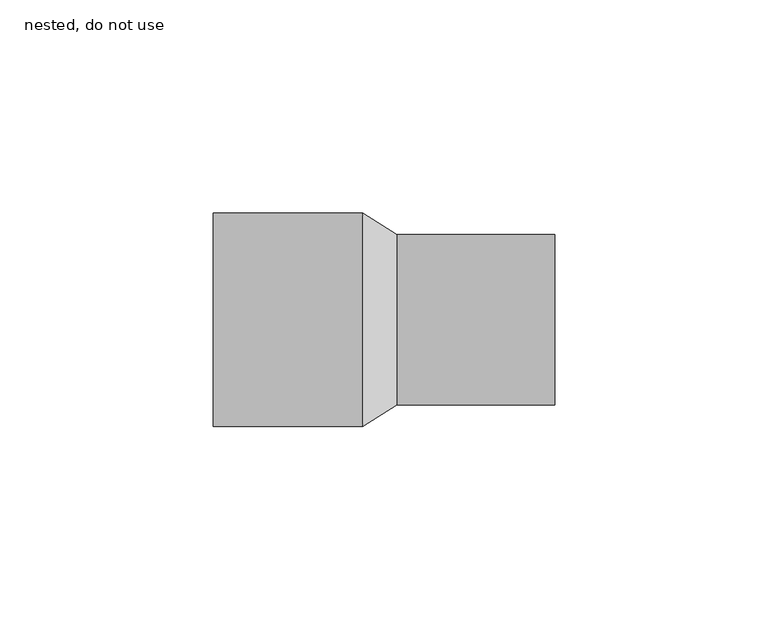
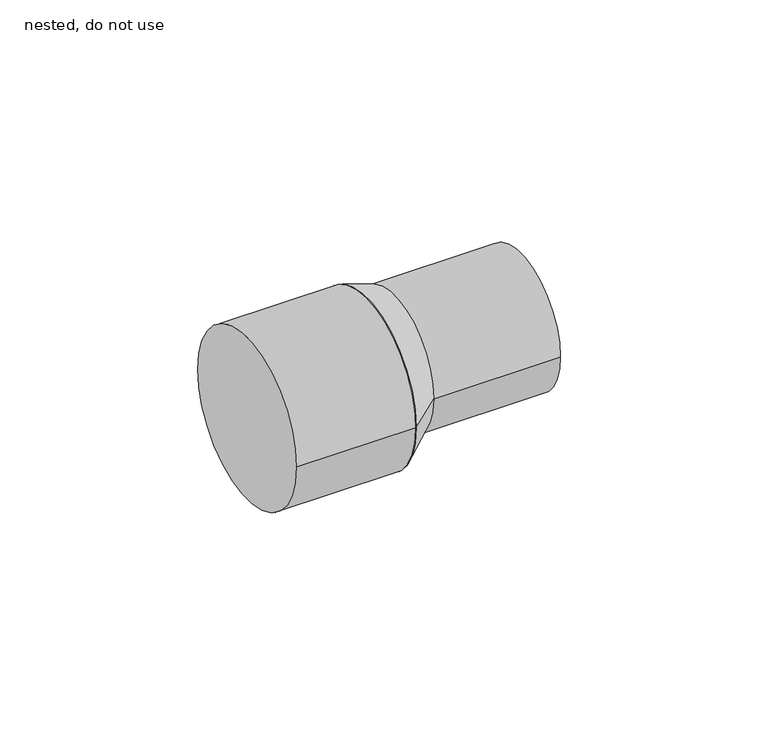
"""IFC4 building model written with IfcOpenShell, lengths in millimetres: pipe fitting geometry, ZZZ_do no use_PIF_HDPE reducer -SH_Akatherm : nested, do not use."""

from ifc_helpers import new_model, si_unit, point, frame, frame_2d, origin, origin_2d, place, context, project, spatial, circle_curve, trimmed, segment, composite_curve, outline, extrude, source, transform, mapped, element, save
from ifc_brep_helpers import plane_surface, spline_surface, advanced_brep


def nested_do_not_use_8d55d71e(model_context):
    return source(origin(), model_context, "Body", "SolidModel", [
        advanced_brep(
        [(3.0, -20.0, 3.0), (3.0, 20.0, 3.0), (-5.0, -25.0, 0.0), (-5.0, 25.0, 0.0)],
        [
            (0, 1, circle_curve(frame((3.0, 0.0, 3.0), z_axis=(1.0, 0.0, 0.0), x_axis=(0.0, 1.0, 0.0)), 20.0)),
            (1, 0, circle_curve(frame((3.0, 0.0, 3.0), z_axis=(1.0, 0.0, 0.0), x_axis=(0.0, 1.0, 0.0)), 20.0)),
            (2, 3, circle_curve(frame((-5.0, 0.0, 0.0), z_axis=(-1.0, 0.0, 0.0), x_axis=(0.0, 1.0, 0.0)), 25.0)),
            (3, 2, circle_curve(frame((-5.0, 0.0, 0.0), z_axis=(-1.0, 0.0, 0.0), x_axis=(0.0, 1.0, 0.0)), 25.0)),
            (3, 1),
            (0, 2),
        ],
        [
            plane_surface(frame((3.0, 0.0, 3.0), z_axis=(1.0, 0.0, 0.0), x_axis=(0.0, 0.0, -1.0))),
            plane_surface(frame((-5.0, 0.0, 0.0), z_axis=(-1.0, 0.0, 0.0), x_axis=(0.0, 0.0, -1.0))),
            spline_surface(2, 1, [[(-5.0, -25.0, 0.0), (3.0, -20.0, 3.0)], [(-5.0, -25.0, -25.0), (3.0, -20.0, -17.0)], [(-5.0, 0.0, -25.0), (3.0, 0.0, -17.0)], [(-5.0, 25.0, -25.0), (3.0, 20.0, -17.0)], [(-5.0, 25.0, 0.0), (3.0, 20.0, 3.0)]], [3, 2, 3], [2, 2], [0.0, 1.0, 2.0], [0.0, 1.0], weights=[[1.0, 1.0], [0.7071067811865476, 0.7071067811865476], [1.0, 1.0], [0.7071067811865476, 0.7071067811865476], [1.0, 1.0]]),
            spline_surface(2, 1, [[(-5.0, 25.0, 0.0), (3.0, 20.0, 3.0)], [(-5.0, 25.0, 25.0), (3.0, 20.0, 23.0)], [(-5.0, 0.0, 25.0), (3.0, 0.0, 23.0)], [(-5.0, -25.0, 25.0), (3.0, -20.0, 23.0)], [(-5.0, -25.0, 0.0), (3.0, -20.0, 3.0)]], [3, 2, 3], [2, 2], [0.0, 1.0, 2.0], [0.0, 1.0], weights=[[1.0, 1.0], [0.7071067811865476, 0.7071067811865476], [1.0, 1.0], [0.7071067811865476, 0.7071067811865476], [1.0, 1.0]]),
        ],
        [
            (0, [[1, 2]]),
            (1, [[3, 4]]),
            (2, [[-4, 5, -1, 6]]),
            (3, [[-3, -6, -2, -5]]),
        ],
    ),
        extrude(outline(composite_curve([segment(trimmed(circle_curve(frame_2d((0.0, 3.0)), 20.0), [point((-20.0, 3.0))], [point((20.0, 3.0))], False, "CARTESIAN"), True, "CONTINUOUS"), segment(trimmed(circle_curve(frame_2d((0.0, 3.0)), 20.0), [point((20.0, 3.0))], [point((-20.0, 3.0))], False, "CARTESIAN"), True, "CONTINUOUS")], self_intersect=False)), frame((3.0, 0.0, 0.0), z_axis=(1.0, 0.0, 0.0), x_axis=(0.0, 1.0, 0.0)), (0.0, 0.0, 1.0), 37.0),
        extrude(outline(composite_curve([segment(trimmed(circle_curve(origin_2d(), 25.0), [point((-25.0, 0.0))], [point((25.0, 0.0))], False, "CARTESIAN"), True, "CONTINUOUS"), segment(trimmed(circle_curve(origin_2d(), 25.0), [point((25.0, 0.0))], [point((-25.0, 0.0))], False, "CARTESIAN"), True, "CONTINUOUS")], self_intersect=False)), frame((-40.0, 0.0, 0.0), z_axis=(1.0, 0.0, 0.0), x_axis=(0.0, 1.0, 0.0)), (0.0, 0.0, 1.0), 35.0),
    ])


if __name__ == "__main__":
    model = new_model("IFC4")
    model_context = context("Model", 3, world=origin())
    ifc_project = project(units=[si_unit("LENGTHUNIT", "METRE", prefix="MILLI")], contexts=[model_context])
    site = spatial("IfcSite", under=ifc_project)
    building = spatial("IfcBuilding", under=site)
    placement = place(None, origin())
    nested_do_not_use_shape = nested_do_not_use_8d55d71e(model_context)
    element("IfcPipeFitting", 1, ObjectType="ZZZ_do no use_PIF_HDPE reducer -SH_Akatherm : nested, do not use", at=placement, inside=building, context=model_context, shape_type="MappedRepresentation", body=[
        mapped(nested_do_not_use_shape, transform((0.0, 0.0, 0.0), x_axis=(1.0, 0.0, 0.0), y_axis=(0.0, 1.0, 0.0), z_axis=(0.0, 0.0, 1.0))),
    ])
    save(model, "model.ifc")
